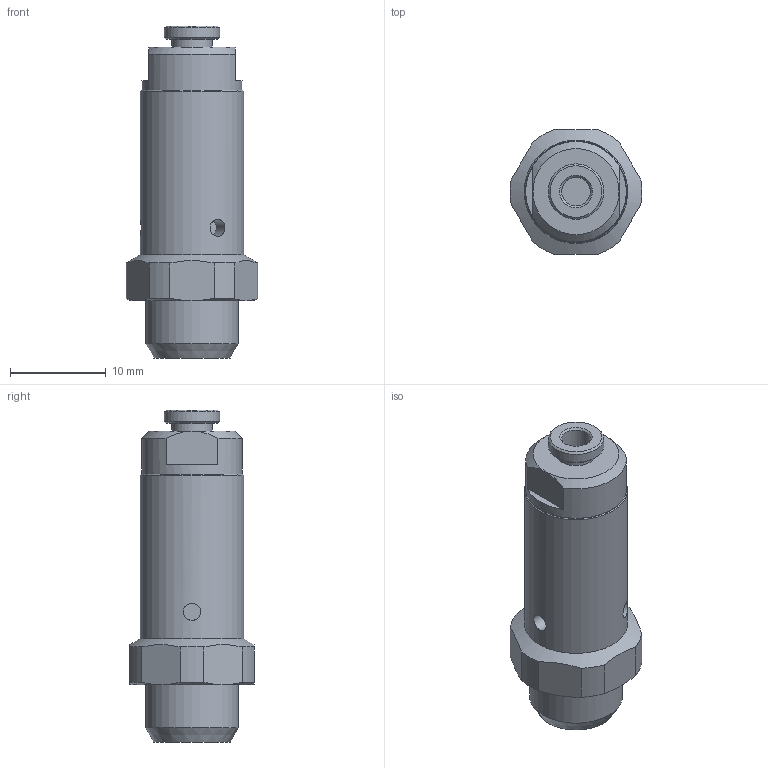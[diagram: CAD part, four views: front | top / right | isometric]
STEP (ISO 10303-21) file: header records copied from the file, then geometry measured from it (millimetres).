
FILE_DESCRIPTION(/* description */ ('V. S.RAPIDO IN TUBO d.3 OUT G1/8"'),/* implementation_level */ '2;1');
FILE_NAME(/* name */ 'I:\Area Tecnica\Disegni\VARIE-3D\Componenti\600\6_02_##_##_L\6_02_03_18_L.stp',/* time_stamp */ '2017-01-20T13:58:44+01:00',/* author */ ('maniean1'),/* organization */ ('Pneumax S.p.A.'),/* preprocessor_version */ 'ST-DEVELOPER v15.2',/* originating_system */ 'Autodesk Inventor 2014',/* authorisation */ '');
FILE_SCHEMA (('AUTOMOTIVE_DESIGN { 1 0 10303 214 3 1 1 }'));
Length unit declared in the file: millimetre
Products named in the file (1): 6_02_03_18_L
Bounding box: 13.77 x 13 x 34.7 mm (x, y, z)
Volume: 2987.1 mm3; surface area: 1523.9 mm2
Topology: 1 solids, 1 shells, 49 faces, 103 edges, 64 vertices
Faces by surface type: plane 20, cylinder 15, cone 14
Full cylindrical faces by diameter (mm): 1.8 x3, 3 x1, 4.2 x1, 5.8 x1, 9.728 x1, 10.5 x1, 10.8 x1
Entity records: 1310 total; most frequent: CARTESIAN_POINT 341, DIRECTION 204, ORIENTED_EDGE 172, AXIS2_PLACEMENT_3D 93, EDGE_CURVE 86, EDGE_LOOP 72, VERTEX_POINT 62, ADVANCED_FACE 49
